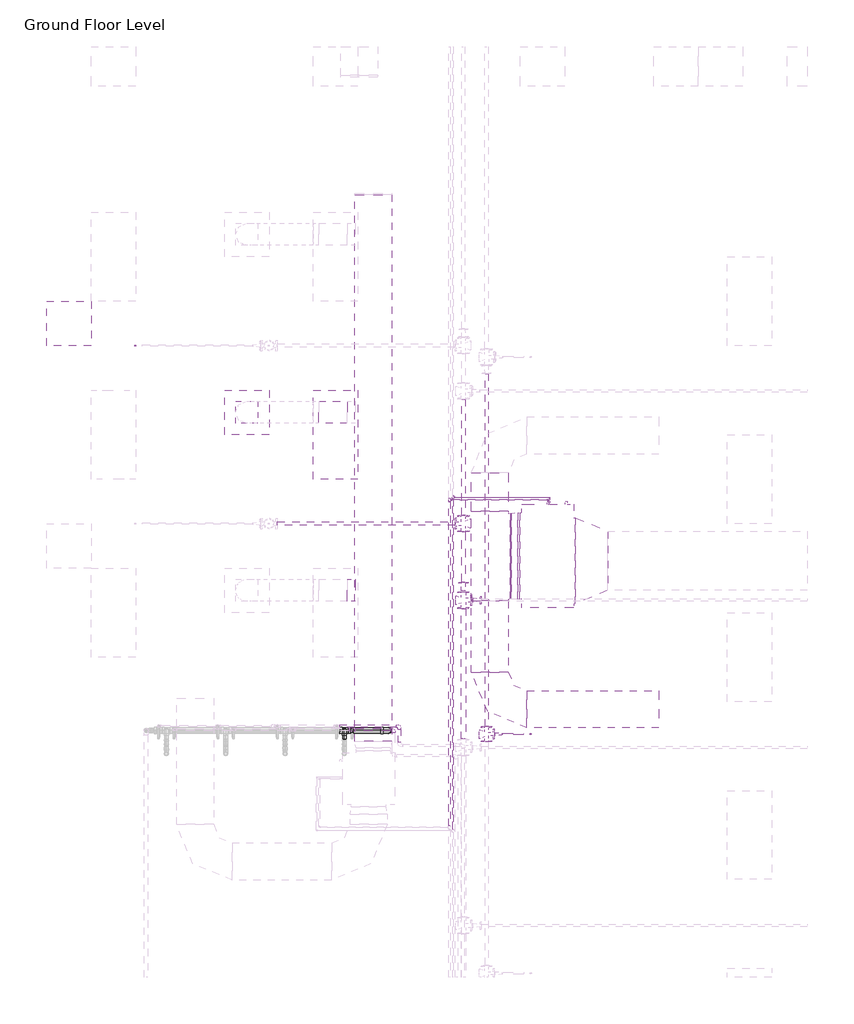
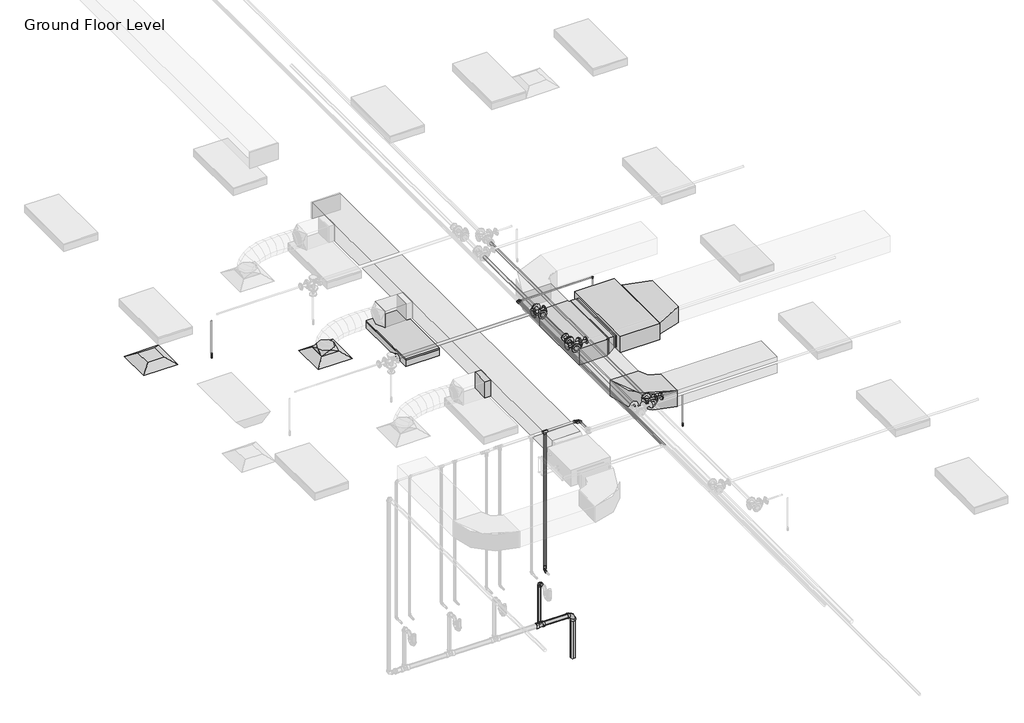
# One storey, part 25 of 74: 24 pipe fittings, 24 pipe segments, 7 duct fittings, 7 duct segments, 2 air terminals, 2 fire suppression terminals, 1 light fixture, 1 proxy.
"""IFC4 building model written with IfcOpenShell, lengths in millimetres."""

from ifc_helpers import new_model, si_unit, point, frame, frame_2d, origin, place, context, project, spatial, polyline, circle_curve, trimmed, segment, composite_curve, outline, extrude, transform, mapped, element, save
from components import m_return_diffuser_600_x_600_face_300_x_300_connection_ff221211, fcu_daikin_iu_5a1bd61d, m_rectangular_elbow_radius_1_w_abe20169, m_rectangular_takeoff_standard_cb0ccb98, m_rectangular_tee_standard_c717c13b, m_rectangular_transition_angle_45_degree_d2868699, m_rectangular_transition_angle_45_degree_3270bfc3, m_rectangular_transition_angle_45_degree_83bbb609, m_rectangular_to_round_transition_angle_45_degree_641efff0, m_sprinkler_dry_pendent_hosted_15_mm_dry_pendent_9bda8e11, m_sprinkler_pendent_15_mm_pendent_06fcbd8e, m_troffer_light_parabolic_rectangular1_0600x1200mm_4_lamp_86473d4a, m_bend_pvc_sch_40_dwv_standard_0eeb11e1, m_bend_pvc_sch_40_dwv_standard_1e7bdcc1, m_elbow_generic_standard_a088f956, m_elbow_generic_standard_2a704253, m_elbow_generic_standard_411ee063, m_elbow_generic_standard_a67d3ed8, m_reducer_flanged_cs_class_150_standard_cc2a7c1d, m_reducer_flanged_cs_class_150_standard_3ab32b2b, m_reducer_flanged_cs_class_150_standard_a7631c35, m_tee_generic_standard_5b2ed4d4, m_tee_generic_standard_5078887e, m_tee_reducing_sanitary_pvc_sch_40_dwv_standard_21d2848c, m_tee_round_base_flanged_cs_class_150_standard_dd767e04, m_tee_round_base_flanged_cs_class_150_standard_9c9133d0, m_tee_round_base_flanged_cs_class_150_standard_ab36f383, m_transition_generic_standard_5f8a9689, m_transition_generic_standard_bdcfe2c1, m_transition_generic_standard_44e35838, m_transition_generic_standard_570aa73b, standard_b266ab3f, standard_517a5a8d, standard_72b35c3b, standard_c7dcb452

model = new_model("IFC4")

# Units and contexts
model_context = context("Model", 3, world=origin())
ifc_project = project(units=[si_unit("LENGTHUNIT", "METRE", prefix="MILLI")], contexts=[model_context])

# Site, building, storey
site = spatial("IfcSite", under=ifc_project)
building = spatial("IfcBuilding", under=site)
storey = spatial("IfcBuildingStorey", under=building, Name="Ground Floor Level", Elevation=900.0)

# Air terminals
placement = place(None, origin())
m_return_diffuser_600_x_600_face_300_x_300_connection_shape = m_return_diffuser_600_x_600_face_300_x_300_connection_ff221211(model_context)
element("IfcAirTerminal", 1, ObjectType="M_Return Diffuser : 600 x 600 Face 300 x 300 Connection", at=placement, inside=storey, context=model_context, shape_type="MappedRepresentation", body=[
    mapped(m_return_diffuser_600_x_600_face_300_x_300_connection_shape, transform((362.7672395, -18364.7846466, 3650.0), x_axis=(1.0, 0.0, 0.0), y_axis=(0.0, 1.0, 0.0), z_axis=(0.0, 0.0, 1.0))),
])
element("IfcAirTerminal", 2, ObjectType="M_Supply Diffuser : 600 x 600 Face 300 x 300 Connection", at=placement, inside=storey, context=model_context, shape_type="MappedRepresentation", body=[
    mapped(m_return_diffuser_600_x_600_face_300_x_300_connection_shape, transform((2762.7672395, -19564.7846466, 3650.0), x_axis=(1.0, 0.0, 0.0), y_axis=(0.0, 1.0, 0.0), z_axis=(0.0, 0.0, 1.0))),
])

# Proxy
fcu_daikin_iu_shape = fcu_daikin_iu_5a1bd61d(model_context)
element("IfcBuildingElementProxy", 3, Name="FCU-DAIKIN IU : 9kW, 230V/50Hz/1Ph", ObjectType="FCU-DAIKIN IU : 9kW, 230V/50Hz/1Ph", at=placement, inside=storey, context=model_context, shape_type="MappedRepresentation", body=[
    mapped(fcu_daikin_iu_shape, transform((6820.4959647, -21503.0689179, 3984.0882279), x_axis=(0.0, 1.0, 0.0), y_axis=(-1.0, 0.0, 0.0), z_axis=(0.0, 0.0, 1.0))),
])

# Duct fittings
m_rectangular_elbow_radius_1_w_shape = m_rectangular_elbow_radius_1_w_abe20169(model_context)
element("IfcDuctFitting", 4, ObjectType="M_Rectangular Elbow - Radius : 1 W", at=placement, inside=storey, context=model_context, shape_type="MappedRepresentation", body=[
    mapped(m_rectangular_elbow_radius_1_w_shape, transform((6040.9897768, -23568.5689179, 4082.4543707), x_axis=(0.0, -1.0, 0.0), y_axis=(1.0, 0.0, 0.0), z_axis=(0.0, 0.0, 1.0))),
])
m_rectangular_takeoff_standard_shape = m_rectangular_takeoff_standard_cb0ccb98(model_context)
element("IfcDuctFitting", 5, ObjectType="M_Rectangular Takeoff : Standard", at=placement, inside=storey, context=model_context, shape_type="MappedRepresentation", body=[
    mapped(m_rectangular_takeoff_standard_shape, transform((4219.1581832, -21964.7846466, 4057.1519579), x_axis=(-1.0, 0.0, 0.0), y_axis=(0.0, 1.0, 0.0), z_axis=(0.0, 0.0, -1.0))),
])
m_rectangular_tee_standard_shape = m_rectangular_tee_standard_c717c13b(model_context)
element("IfcDuctFitting", 6, ObjectType="M_Rectangular Tee : Standard", at=placement, inside=storey, context=model_context, shape_type="MappedRepresentation", body=[
    mapped(m_rectangular_tee_standard_shape, transform((6040.9973279, -21503.0689179, 4082.4405262), x_axis=(0.0, -1.0, 0.0), y_axis=(-1.0, 0.0, 0.0), z_axis=(0.0, 0.0, -1.0))),
])
m_rectangular_transition_angle_45_degree_shape = m_rectangular_transition_angle_45_degree_d2868699(model_context)
element("IfcDuctFitting", 7, ObjectType="M_Rectangular Transition - Angle : 45 Degree", at=placement, inside=storey, context=model_context, shape_type="MappedRepresentation", body=[
    mapped(m_rectangular_transition_angle_45_degree_shape, transform((7195.8959647, -21566.5689179, 4150.0007279), x_axis=(1.0, 0.0, 0.0), y_axis=(0.0, 1.0, 0.0), z_axis=(0.0, 0.0, 1.0))),
])
m_rectangular_transition_angle_45_degree_2_shape = m_rectangular_transition_angle_45_degree_3270bfc3(model_context)
element("IfcDuctFitting", 8, ObjectType="M_Rectangular Transition - Angle : 45 Degree", at=placement, inside=storey, context=model_context, shape_type="MappedRepresentation", body=[
    mapped(m_rectangular_transition_angle_45_degree_2_shape, transform((6445.0959647, -21503.0689179, 4125.2882279), x_axis=(-1.0, 0.0, 0.0), y_axis=(0.0, -1.0, 0.0), z_axis=(0.0, 0.0, 1.0))),
])
m_rectangular_transition_angle_45_degree_3_shape = m_rectangular_transition_angle_45_degree_83bbb609(model_context)
element("IfcDuctFitting", 9, ObjectType="M_Rectangular Transition - Angle : 45 Degree", at=placement, inside=storey, context=model_context, shape_type="MappedRepresentation", body=[
    mapped(m_rectangular_transition_angle_45_degree_3_shape, transform((6416.9897764, -21503.0689179, 4125.4405264), x_axis=(-1.0, 0.0, 0.0), y_axis=(0.0, -1.0, 0.0), z_axis=(0.0, 0.0, 1.0))),
])
m_rectangular_to_round_transition_angle_45_degree_shape = m_rectangular_to_round_transition_angle_45_degree_641efff0(model_context)
element("IfcDuctFitting", 10, ObjectType="M_Rectangular to Round Transition - Angle : 45 Degree", at=placement, inside=storey, context=model_context, shape_type="MappedRepresentation", body=[
    mapped(m_rectangular_to_round_transition_angle_45_degree_shape, transform((2762.7672395, -19564.7846466, 3751.6), x_axis=(0.0, 0.0, 1.0), y_axis=(-1.0, 0.0, 0.0), z_axis=(0.0, -1.0, 0.0))),
])

# Duct segments
element("IfcDuctSegment", 11, ObjectType="Radius Elbows / Taps", at=placement, inside=storey, context=model_context, shape_type="SweptSolid", body=[
    extrude(outline(polyline([(0.0, -500.0), (0.0, 0.0), (7371.604175, 0.0), (7371.604175, -500.0), (0.0, -500.0)])), frame((4719.1581832, -16631.8629481, 3907.1429453), z_axis=(0.0, 1.6199957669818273e-06, 0.9999999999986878), x_axis=(0.0, -0.9999999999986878, 1.6199957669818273e-06)), (0.0, 0.0, 1.0), 300.0),
])
element("IfcDuctSegment", 12, ObjectType="Radius Elbows / Taps", at=placement, inside=storey, context=model_context, shape_type="SweptSolid", body=[
    extrude(outline(polyline([(6290.9897768, -20897.5689179), (5790.9897768, -20897.5689179), (5790.9897768, -20377.6206315), (6290.9897768, -20377.6206315), (6290.9897768, -20897.5689179)])), frame((0.0, 0.0, 3932.4543707), z_axis=(0.0, 0.0, 1.0), x_axis=(1.0, 0.0, 0.0)), (0.0, 0.0, 1.0), 300.0),
])
element("IfcDuctSegment", 13, ObjectType="Radius Elbows / Taps", at=placement, inside=storey, context=model_context, shape_type="SweptSolid", body=[
    extrude(outline(polyline([(5790.9897768, -22108.5689179), (6290.9897768, -22108.5689179), (6290.9897768, -23068.5689179), (5790.9897768, -23068.5689179), (5790.9897768, -22108.5689179)])), frame((0.0, 0.0, 3932.4543707), z_axis=(0.0, 0.0, 1.0), x_axis=(1.0, 0.0, 0.0)), (0.0, 0.0, 1.0), 300.0),
])
element("IfcDuctSegment", 14, ObjectType="Radius Elbows / Taps", at=placement, inside=storey, context=model_context, shape_type="SweptSolid", body=[
    extrude(outline(polyline([(6540.9897768, -23818.5689179), (6540.9897768, -23318.5689179), (8320.9897766, -23318.5689179), (8320.9897766, -23818.5689179), (6540.9897768, -23818.5689179)])), frame((0.0, 0.0, 3932.4543707), z_axis=(0.0, 0.0, 1.0), x_axis=(1.0, 0.0, 0.0)), (0.0, 0.0, 1.0), 300.0),
])
element("IfcDuctSegment", 15, ObjectType="Radius Elbows / Taps", at=placement, inside=storey, context=model_context, shape_type="SweptSolid", body=[
    extrude(outline(polyline([(6315.9897764, -22083.5689179), (6315.9897764, -20922.5689179), (6330.9897764, -20922.5689179), (6330.9897764, -22083.5689179), (6315.9897764, -22083.5689179)])), frame((0.0, 0.0, 3932.4405264), z_axis=(0.0, 0.0, 1.0), x_axis=(1.0, 0.0, 0.0)), (0.0, 0.0, 1.0), 300.0),
])
element("IfcDuctSegment", 16, ObjectType="Radius Elbows / Taps", at=placement, inside=storey, context=model_context, shape_type="SweptSolid", body=[
    extrude(outline(polyline([(6444.798299, -20922.0689179), (6444.798299, -22084.0689179), (6416.9897764, -22084.0689179), (6416.9897764, -20922.0689179), (6444.798299, -20922.0689179)])), frame((0.0, 0.0, 4018.4405264), z_axis=(0.0, 0.0, 1.0), x_axis=(1.0, 0.0, 0.0)), (0.0, 0.0, 1.0), 214.0),
])
element("IfcDuctSegment", 17, ObjectType="Radius Elbows / Taps", at=placement, inside=storey, context=model_context, shape_type="SweptSolid", body=[
    extrude(outline(polyline([(4117.5581832, -19414.7846466), (4117.5581832, -19714.7846466), (3732.9552689, -19714.7846466), (3732.9552689, -19414.7846466), (4117.5581832, -19414.7846466)])), frame((0.0, 0.0, 3907.1479019), z_axis=(0.0, 0.0, 1.0), x_axis=(1.0, 0.0, 0.0)), (0.0, 0.0, 1.0), 300.0),
])

# Fire suppression terminals
m_sprinkler_dry_pendent_hosted_15_mm_dry_pendent_shape = m_sprinkler_dry_pendent_hosted_15_mm_dry_pendent_9bda8e11(model_context)
element("IfcFireSuppressionTerminal", 18, ObjectType="M_Sprinkler - Dry - Pendent - Hosted : 15 mm Dry Pendent", at=placement, inside=storey, context=model_context, shape_type="MappedRepresentation", body=[
    mapped(m_sprinkler_dry_pendent_hosted_15_mm_dry_pendent_shape, transform((1262.7672395, -18664.7846466, 3650.0), x_axis=(1.0, 0.0, 0.0), y_axis=(0.0, -1.0, 0.0), z_axis=(0.0, 0.0, -1.0))),
])
m_sprinkler_pendent_15_mm_pendent_shape = m_sprinkler_pendent_15_mm_pendent_06fcbd8e(model_context)
element("IfcFireSuppressionTerminal", 19, ObjectType="M_Sprinkler - Pendent : 15 mm Pendent", at=placement, inside=storey, context=model_context, shape_type="MappedRepresentation", body=[
    mapped(m_sprinkler_pendent_15_mm_pendent_shape, transform((6592.5481019, -23903.6779349, 3650.0), x_axis=(1.0, 0.0, 0.0), y_axis=(0.0, 1.0, 0.0), z_axis=(0.0, 0.0, 1.0))),
])

# Light fixture
m_troffer_light_parabolic_rectangular1_0600x1200mm_4_lamp_shape = m_troffer_light_parabolic_rectangular1_0600x1200mm_4_lamp_86473d4a(model_context)
element("IfcLightFixture", 20, ObjectType="M_Troffer Light - Parabolic Rectangular1 : 0600x1200mm(4 Lamp) - 277V 2", at=placement, inside=storey, context=model_context, shape_type="MappedRepresentation", body=[
    mapped(m_troffer_light_parabolic_rectangular1_0600x1200mm_4_lamp_shape, transform((3903.3013074, -19846.081145, 3650.0), x_axis=(0.0, 1.0, 0.0), y_axis=(-1.0, 0.0, 0.0), z_axis=(0.0, 0.0, 1.0))),
])

# Pipe fittings
m_bend_pvc_sch_40_dwv_standard_shape = m_bend_pvc_sch_40_dwv_standard_0eeb11e1(model_context)
element("IfcPipeFitting", 21, ObjectType="M_Bend - PVC - Sch 40 - DWV : Standard", at=placement, inside=storey, context=model_context, shape_type="MappedRepresentation", body=[
    mapped(m_bend_pvc_sch_40_dwv_standard_shape, transform((4671.3267974, -23854.2948449, 706.9937306), x_axis=(0.9999500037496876, 0.0, -0.009999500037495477), y_axis=(-0.009999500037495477, 0.0, -0.9999500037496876), z_axis=(0.0, 1.0, 0.0))),
])
m_bend_pvc_sch_40_dwv_standard_2_shape = m_bend_pvc_sch_40_dwv_standard_1e7bdcc1(model_context)
element("IfcPipeFitting", 22, ObjectType="M_Bend - PVC - Sch 40 - DWV : Standard", at=placement, inside=storey, context=model_context, shape_type="MappedRepresentation", body=[
    mapped(m_bend_pvc_sch_40_dwv_standard_2_shape, transform((4079.14976, -23854.2948449, 1508.2594199), x_axis=(0.0, 0.9999500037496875, -0.00999950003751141), y_axis=(0.0, -0.00999950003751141, -0.9999500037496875), z_axis=(-1.0, 0.0, 0.0))),
])
m_elbow_generic_standard_shape = m_elbow_generic_standard_a088f956(model_context)
element("IfcPipeFitting", 23, ObjectType="M_Elbow - Generic : Standard", at=placement, inside=storey, context=model_context, shape_type="MappedRepresentation", body=[
    mapped(m_elbow_generic_standard_shape, transform((6820.4959647, -20745.3977393, 4390.0), x_axis=(1.0, 0.0, 0.0), y_axis=(0.0, 0.0, -1.0), z_axis=(0.0, 1.0, 0.0))),
])
m_elbow_generic_standard_2_shape = m_elbow_generic_standard_2a704253(model_context)
element("IfcPipeFitting", 24, ObjectType="M_Elbow - Generic : Standard", at=placement, inside=storey, context=model_context, shape_type="MappedRepresentation", body=[
    mapped(m_elbow_generic_standard_2_shape, transform((6845.4959647, -20711.8462992, 4377.5), x_axis=(1.0, 0.0, 0.0), y_axis=(0.0, 0.0, -1.0), z_axis=(0.0, 1.0, 0.0))),
])
m_elbow_generic_standard_3_shape = m_elbow_generic_standard_411ee063(model_context)
element("IfcPipeFitting", 25, ObjectType="M_Elbow - Generic : Standard", at=placement, inside=storey, context=model_context, shape_type="MappedRepresentation", body=[
    mapped(m_elbow_generic_standard_3_shape, transform((6820.4959647, -20745.3896748, 4084.1050098), x_axis=(0.0, 0.0, -1.0), y_axis=(0.0, -1.0, 0.0), z_axis=(-1.0, 0.0, 0.0))),
])
m_elbow_generic_standard_4_shape = m_elbow_generic_standard_a67d3ed8(model_context)
element("IfcPipeFitting", 26, ObjectType="M_Elbow - Generic : Standard", at=placement, inside=storey, context=model_context, shape_type="MappedRepresentation", body=[
    mapped(m_elbow_generic_standard_4_shape, transform((6845.4959647, -20711.8400273, 4134.9034747), x_axis=(0.0, 0.0, -1.0), y_axis=(0.0, -1.0, 0.0), z_axis=(-1.0, 0.0, 0.0))),
])
m_reducer_flanged_cs_class_150_standard_shape = m_reducer_flanged_cs_class_150_standard_cc2a7c1d(model_context)
element("IfcPipeFitting", 27, ObjectType="M_Reducer - Flanged - CS - Class 150 : Standard", at=placement, inside=storey, context=model_context, shape_type="MappedRepresentation", body=[
    mapped(m_reducer_flanged_cs_class_150_standard_shape, transform((6103.1564057, -23903.6779349, 4291.2754753), x_axis=(1.0, 0.0, 0.0), y_axis=(0.0, 0.0, -1.0), z_axis=(0.0, 1.0, 0.0))),
])
m_reducer_flanged_cs_class_150_standard_2_shape = m_reducer_flanged_cs_class_150_standard_3ab32b2b(model_context)
element("IfcPipeFitting", 28, ObjectType="M_Reducer - Flanged - CS - Class 150 : Standard", at=placement, inside=storey, context=model_context, shape_type="MappedRepresentation", body=[
    mapped(m_reducer_flanged_cs_class_150_standard_2_shape, transform((5684.6174894, -21984.0287346, 4347.5), x_axis=(0.0, 1.0, 0.0), y_axis=(-1.0, 0.0, 0.0), z_axis=(0.0, 0.0, 1.0))),
])
m_reducer_flanged_cs_class_150_standard_3_shape = m_reducer_flanged_cs_class_150_standard_a7631c35(model_context)
element("IfcPipeFitting", 29, ObjectType="M_Reducer - Flanged - CS - Class 150 : Standard", at=placement, inside=storey, context=model_context, shape_type="MappedRepresentation", body=[
    mapped(m_reducer_flanged_cs_class_150_standard_3_shape, transform((5798.6174894, -22098.0287346, 4347.5), x_axis=(1.0, 0.0, 0.0), y_axis=(0.0, 0.0, 1.0), z_axis=(0.0, -1.0, 0.0))),
])
m_tee_generic_standard_shape = m_tee_generic_standard_5b2ed4d4(model_context)
element("IfcPipeFitting", 30, ObjectType="M_Tee - Generic : Standard", at=placement, inside=storey, context=model_context, shape_type="MappedRepresentation", body=[
    mapped(m_tee_generic_standard_shape, transform((5543.9904113, -20711.8462992, 4377.5), x_axis=(0.0, -1.0, 0.0), y_axis=(-1.0, 0.0, 0.0), z_axis=(0.0, 0.0, -1.0))),
])
m_tee_generic_standard_2_shape = m_tee_generic_standard_5078887e(model_context)
element("IfcPipeFitting", 31, ObjectType="M_Tee - Generic : Standard", at=placement, inside=storey, context=model_context, shape_type="MappedRepresentation", body=[
    mapped(m_tee_generic_standard_2_shape, transform((5497.8951827, -20745.3977393, 4390.0), x_axis=(0.0, -1.0, 0.0), y_axis=(-1.0, 0.0, 0.0), z_axis=(0.0, 0.0, -1.0))),
])
m_tee_reducing_sanitary_pvc_sch_40_dwv_standard_shape = m_tee_reducing_sanitary_pvc_sch_40_dwv_standard_21d2848c(model_context)
element("IfcPipeFitting", 32, ObjectType="M_Tee Reducing Sanitary - PVC - Sch 40 - DWV : Standard", at=placement, inside=storey, context=model_context, shape_type="MappedRepresentation", body=[
    mapped(m_tee_reducing_sanitary_pvc_sch_40_dwv_standard_shape, transform((4079.3782372, -23854.2948449, 713.0632162), x_axis=(-0.9999500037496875, 0.0, 0.00999950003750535), y_axis=(-0.00999950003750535, 0.0, -0.9999500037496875), z_axis=(0.0, -1.0, 0.0))),
])
m_tee_round_base_flanged_cs_class_150_standard_shape = m_tee_round_base_flanged_cs_class_150_standard_dd767e04(model_context)
element("IfcPipeFitting", 33, ObjectType="M_Tee Round Base - Flanged - CS - Class 150 : Standard", at=placement, inside=storey, context=model_context, shape_type="MappedRepresentation", body=[
    mapped(m_tee_round_base_flanged_cs_class_150_standard_shape, transform((5684.6174894, -22098.0287346, 4347.5), x_axis=(0.0, -1.0, 0.0), y_axis=(-1.0, 0.0, 0.0), z_axis=(0.0, 0.0, -1.0))),
])
m_tee_round_base_flanged_cs_class_150_standard_2_shape = m_tee_round_base_flanged_cs_class_150_standard_9c9133d0(model_context)
element("IfcPipeFitting", 34, ObjectType="M_Tee Round Base - Flanged - CS - Class 150 : Standard", at=placement, inside=storey, context=model_context, shape_type="MappedRepresentation", body=[
    mapped(m_tee_round_base_flanged_cs_class_150_standard_2_shape, transform((5997.057812, -23903.6779349, 4291.0943441), x_axis=(0.0, 1.0, 0.0), y_axis=(-1.0, 0.0, 0.0), z_axis=(0.0, 0.0, 1.0))),
])
m_tee_round_base_flanged_cs_class_150_standard_3_shape = m_tee_round_base_flanged_cs_class_150_standard_ab36f383(model_context)
element("IfcPipeFitting", 35, ObjectType="M_Tee Round Base - Flanged - CS - Class 150 : Standard", at=placement, inside=storey, context=model_context, shape_type="MappedRepresentation", body=[
    mapped(m_tee_round_base_flanged_cs_class_150_standard_3_shape, transform((5684.6174894, -21064.7846466, 4347.5), x_axis=(0.0, -1.0, 0.0), y_axis=(1.0, 0.0, 0.0), z_axis=(0.0, 0.0, 1.0))),
])
m_transition_generic_standard_shape = m_transition_generic_standard_5f8a9689(model_context)
element("IfcPipeFitting", 36, ObjectType="M_Transition - Generic : Standard", at=placement, inside=storey, context=model_context, shape_type="MappedRepresentation", body=[
    mapped(m_transition_generic_standard_shape, transform((5497.8951827, -20721.5852393, 4390.0), x_axis=(0.0, 1.0, 0.0), y_axis=(-1.0, 0.0, 0.0), z_axis=(0.0, 0.0, 1.0))),
])
m_transition_generic_standard_2_shape = m_transition_generic_standard_bdcfe2c1(model_context)
element("IfcPipeFitting", 37, ObjectType="M_Transition - Generic : Standard", at=placement, inside=storey, context=model_context, shape_type="MappedRepresentation", body=[
    mapped(m_transition_generic_standard_2_shape, transform((5564.6279113, -20711.8462992, 4377.5), x_axis=(1.0, 0.0, 0.0), y_axis=(0.0, 1.0, 0.0), z_axis=(0.0, 0.0, 1.0))),
])
m_transition_generic_standard_3_shape = m_transition_generic_standard_44e35838(model_context)
element("IfcPipeFitting", 38, ObjectType="M_Transition - Generic : Standard", at=placement, inside=storey, context=model_context, shape_type="MappedRepresentation", body=[
    mapped(m_transition_generic_standard_3_shape, transform((5521.7076827, -20745.3977393, 4390.0), x_axis=(1.0, 0.0, 0.0), y_axis=(0.0, 1.0, 0.0), z_axis=(0.0, 0.0, 1.0))),
])
m_transition_generic_standard_4_shape = m_transition_generic_standard_570aa73b(model_context)
element("IfcPipeFitting", 39, ObjectType="M_Transition - Generic : Standard", at=placement, inside=storey, context=model_context, shape_type="MappedRepresentation", body=[
    mapped(m_transition_generic_standard_4_shape, transform((5543.9904113, -20691.2087992, 4377.5), x_axis=(0.0, 1.0, 0.0), y_axis=(-1.0, 0.0, 0.0), z_axis=(0.0, 0.0, 1.0))),
])
standard_shape = standard_b266ab3f(model_context)
element("IfcPipeFitting", 40, ObjectType="M_Elbow - CPVC - Sch 40 : Standard", at=placement, inside=storey, context=model_context, shape_type="MappedRepresentation", body=[
    mapped(standard_shape, transform((4183.0647206, -23844.7846466, 1690.0), x_axis=(0.0, 1.0, 0.0), y_axis=(0.0, 0.0, 1.0), z_axis=(1.0, 0.0, 0.0))),
])
standard_2_shape = standard_517a5a8d(model_context)
element("IfcPipeFitting", 41, ObjectType="M_Elbow - CPVC - Sch 40 : Standard", at=placement, inside=storey, context=model_context, shape_type="MappedRepresentation", body=[
    mapped(standard_2_shape, transform((4743.0647206, -23844.7846466, 4300.0), x_axis=(0.0, 1.0, 0.0), y_axis=(-1.0, 0.0, 0.0), z_axis=(0.0, 0.0, 1.0))),
])
element("IfcPipeFitting", 42, ObjectType="M_Elbow - CPVC - Sch 40 : Standard", at=placement, inside=storey, context=model_context, shape_type="MappedRepresentation", body=[
    mapped(standard_2_shape, transform((4820.5575802, -23794.921633, 4250.0), x_axis=(0.0, 1.0, 0.0), y_axis=(-1.0, 0.0, 0.0), z_axis=(0.0, 0.0, 1.0))),
])
standard_3_shape = standard_72b35c3b(model_context)
element("IfcPipeFitting", 43, ObjectType="M_Tee - CPVC - Sch 40 : Standard", at=placement, inside=storey, context=model_context, shape_type="MappedRepresentation", body=[
    mapped(standard_3_shape, transform((4183.0647206, -23844.7846466, 4300.0), x_axis=(-1.0, 0.0, 0.0), y_axis=(0.0, 0.0, 1.0), z_axis=(0.0, 1.0, 0.0))),
])
standard_4_shape = standard_c7dcb452(model_context)
element("IfcPipeFitting", 44, ObjectType="M_Coupling Reducing - CPVC - Sch 40 : Standard", at=placement, inside=storey, context=model_context, shape_type="MappedRepresentation", body=[
    mapped(standard_4_shape, transform((4183.0647206, -23844.7846466, 1725.32505), x_axis=(0.0, 0.0, 1.0), y_axis=(0.0, 1.0, 0.0), z_axis=(-1.0, 0.0, 0.0))),
])

# Pipe segments
element("IfcPipeSegment", 45, ObjectType="CPVC", at=placement, inside=storey, context=model_context, shape_type="SweptSolid", body=[
    extrude(outline(composite_curve([segment(trimmed(circle_curve(frame_2d((-23844.7846466, 4300.0)), 16.7005), [point((-23861.4851466, 4300.0))], [point((-23844.7846466, 4316.7005))], False, "CARTESIAN"), True, "CONTINUOUS"), segment(trimmed(circle_curve(frame_2d((-23844.7846466, 4300.0)), 16.7005), [point((-23844.7846466, 4316.7005))], [point((-23828.0841466, 4300.0))], False, "CARTESIAN"), True, "CONTINUOUS"), segment(trimmed(circle_curve(frame_2d((-23844.7846466, 4300.0)), 16.7005), [point((-23828.0841466, 4300.0))], [point((-23844.7846466, 4283.2995))], False, "CARTESIAN"), True, "CONTINUOUS"), segment(trimmed(circle_curve(frame_2d((-23844.7846466, 4300.0)), 16.7005), [point((-23844.7846466, 4283.2995))], [point((-23861.4851466, 4300.0))], False, "CARTESIAN"), True, "CONTINUOUS")], self_intersect=False)), frame((4222.7649206, 0.0, 0.0), z_axis=(1.0, 0.0, 0.0), x_axis=(0.0, 1.0, 0.0)), (0.0, 0.0, 1.0), 477.03725),
])
element("IfcPipeSegment", 46, ObjectType="CPVC", at=placement, inside=storey, context=model_context, shape_type="SweptSolid", body=[
    extrude(outline(composite_curve([segment(trimmed(circle_curve(frame_2d((4183.0647206, -23844.7846466)), 16.7005), [point((4166.3642206, -23844.7846466))], [point((4183.0647206, -23828.0841466))], False, "CARTESIAN"), True, "CONTINUOUS"), segment(trimmed(circle_curve(frame_2d((4183.0647206, -23844.7846466)), 16.7005), [point((4183.0647206, -23828.0841466))], [point((4199.7652206, -23844.7846466))], False, "CARTESIAN"), True, "CONTINUOUS"), segment(trimmed(circle_curve(frame_2d((4183.0647206, -23844.7846466)), 16.7005), [point((4199.7652206, -23844.7846466))], [point((4183.0647206, -23861.4851466))], False, "CARTESIAN"), True, "CONTINUOUS"), segment(trimmed(circle_curve(frame_2d((4183.0647206, -23844.7846466)), 16.7005), [point((4183.0647206, -23861.4851466))], [point((4166.3642206, -23844.7846466))], False, "CARTESIAN"), True, "CONTINUOUS")], self_intersect=False)), frame((0.0, 0.0, 1782.47505), z_axis=(0.0, 0.0, 1.0), x_axis=(1.0, 0.0, 0.0)), (0.0, 0.0, 1.0), 2477.82475),
])
element("IfcPipeSegment", 47, ObjectType="CPVC", at=placement, inside=storey, context=model_context, shape_type="SweptSolid", body=[
    extrude(outline(composite_curve([segment(trimmed(circle_curve(frame_2d((4250.0, 4820.5575802)), 16.7005), [point((4250.0, 4837.2580802))], [point((4266.7005, 4820.5575802))], False, "CARTESIAN"), True, "CONTINUOUS"), segment(trimmed(circle_curve(frame_2d((4250.0, 4820.5575802)), 16.7005), [point((4266.7005, 4820.5575802))], [point((4250.0, 4803.8570802))], False, "CARTESIAN"), True, "CONTINUOUS"), segment(trimmed(circle_curve(frame_2d((4250.0, 4820.5575802)), 16.7005), [point((4250.0, 4803.8570802))], [point((4233.2995, 4820.5575802))], False, "CARTESIAN"), True, "CONTINUOUS"), segment(trimmed(circle_curve(frame_2d((4250.0, 4820.5575802)), 16.7005), [point((4233.2995, 4820.5575802))], [point((4250.0, 4837.2580802))], False, "CARTESIAN"), True, "CONTINUOUS")], self_intersect=False)), frame((0.0, -24011.659083, 0.0), z_axis=(0.0, 1.0, 0.0), x_axis=(0.0, 0.0, 1.0)), (0.0, 0.0, 1.0), 173.4749),
])
element("IfcPipeSegment", 48, ObjectType="CPVC", at=placement, inside=storey, context=model_context, shape_type="SweptSolid", body=[
    extrude(outline(composite_curve([segment(trimmed(circle_curve(frame_2d((-23794.921633, 4250.0)), 16.7005), [point((-23811.622133, 4250.0))], [point((-23794.921633, 4266.7005))], False, "CARTESIAN"), True, "CONTINUOUS"), segment(trimmed(circle_curve(frame_2d((-23794.921633, 4250.0)), 16.7005), [point((-23794.921633, 4266.7005))], [point((-23778.221133, 4250.0))], False, "CARTESIAN"), True, "CONTINUOUS"), segment(trimmed(circle_curve(frame_2d((-23794.921633, 4250.0)), 16.7005), [point((-23778.221133, 4250.0))], [point((-23794.921633, 4233.2995))], False, "CARTESIAN"), True, "CONTINUOUS"), segment(trimmed(circle_curve(frame_2d((-23794.921633, 4250.0)), 16.7005), [point((-23794.921633, 4233.2995))], [point((-23811.622133, 4250.0))], False, "CARTESIAN"), True, "CONTINUOUS")], self_intersect=False)), frame((4014.1350794, 0.0, 0.0), z_axis=(1.0, 0.0, 0.0), x_axis=(0.0, 1.0, 0.0)), (0.0, 0.0, 1.0), 763.1599508),
])
element("IfcPipeSegment", 49, ObjectType="Copper", at=placement, inside=storey, context=model_context, shape_type="SweptSolid", body=[
    extrude(outline(composite_curve([segment(trimmed(circle_curve(frame_2d((-20711.8462992, 4377.5)), 3.35), [point((-20715.1962992, 4377.5))], [point((-20711.8462992, 4380.85))], False, "CARTESIAN"), True, "CONTINUOUS"), segment(trimmed(circle_curve(frame_2d((-20711.8462992, 4377.5)), 3.35), [point((-20711.8462992, 4380.85))], [point((-20708.4962992, 4377.5))], False, "CARTESIAN"), True, "CONTINUOUS"), segment(trimmed(circle_curve(frame_2d((-20711.8462992, 4377.5)), 3.35), [point((-20708.4962992, 4377.5))], [point((-20711.8462992, 4374.15))], False, "CARTESIAN"), True, "CONTINUOUS"), segment(trimmed(circle_curve(frame_2d((-20711.8462992, 4377.5)), 3.35), [point((-20711.8462992, 4374.15))], [point((-20715.1962992, 4377.5))], False, "CARTESIAN"), True, "CONTINUOUS")], self_intersect=False)), frame((5568.5966613, 0.0, 0.0), z_axis=(1.0, 0.0, 0.0), x_axis=(0.0, 1.0, 0.0)), (0.0, 0.0, 1.0), 1265.7618034),
])
element("IfcPipeSegment", 50, ObjectType="Copper", at=placement, inside=storey, context=model_context, shape_type="SweptSolid", body=[
    extrude(outline(composite_curve([segment(trimmed(circle_curve(frame_2d((-20745.3977393, 4390.0)), 6.5), [point((-20751.8977393, 4390.0))], [point((-20745.3977393, 4396.5))], False, "CARTESIAN"), True, "CONTINUOUS"), segment(trimmed(circle_curve(frame_2d((-20745.3977393, 4390.0)), 6.5), [point((-20745.3977393, 4396.5))], [point((-20738.8977393, 4390.0))], False, "CARTESIAN"), True, "CONTINUOUS"), segment(trimmed(circle_curve(frame_2d((-20745.3977393, 4390.0)), 6.5), [point((-20738.8977393, 4390.0))], [point((-20745.3977393, 4383.5))], False, "CARTESIAN"), True, "CONTINUOUS"), segment(trimmed(circle_curve(frame_2d((-20745.3977393, 4390.0)), 6.5), [point((-20745.3977393, 4383.5))], [point((-20751.8977393, 4390.0))], False, "CARTESIAN"), True, "CONTINUOUS")], self_intersect=False)), frame((5527.2639327, 0.0, 0.0), z_axis=(1.0, 0.0, 0.0), x_axis=(0.0, 1.0, 0.0)), (0.0, 0.0, 1.0), 1278.9445321),
])
element("IfcPipeSegment", 51, ObjectType="Copper", at=placement, inside=storey, context=model_context, shape_type="SweptSolid", body=[
    extrude(outline(composite_curve([segment(trimmed(circle_curve(frame_2d((0.0, -6.5)), 6.5), [point((-6.5, -6.5))], [point((0.0, 0.0))], False, "CARTESIAN"), True, "CONTINUOUS"), segment(trimmed(circle_curve(frame_2d((0.0, -6.5)), 6.5), [point((0.0, 0.0))], [point((6.5, -6.5))], False, "CARTESIAN"), True, "CONTINUOUS"), segment(trimmed(circle_curve(frame_2d((0.0, -6.5)), 6.5), [point((6.5, -6.5))], [point((0.0, -13.0))], False, "CARTESIAN"), True, "CONTINUOUS"), segment(trimmed(circle_curve(frame_2d((0.0, -6.5)), 6.5), [point((0.0, -13.0))], [point((-6.5, -6.5))], False, "CARTESIAN"), True, "CONTINUOUS")], self_intersect=False)), frame((6820.4959647, -20764.9497842, 4077.5882561), z_axis=(0.0, 0.9999956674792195, 0.0029436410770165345), x_axis=(1.0, 0.0, 0.0)), (0.0, 0.0, 1.0), 5.2929673),
])
element("IfcPipeSegment", 52, ObjectType="Copper", at=placement, inside=storey, context=model_context, shape_type="SweptSolid", body=[
    extrude(outline(composite_curve([segment(trimmed(circle_curve(frame_2d((0.0, -3.35)), 3.35), [point((0.0, 0.0))], [point((3.35, -3.35))], False, "CARTESIAN"), True, "CONTINUOUS"), segment(trimmed(circle_curve(frame_2d((0.0, -3.35)), 3.35), [point((3.35, -3.35))], [point((0.0, -6.7))], False, "CARTESIAN"), True, "CONTINUOUS"), segment(trimmed(circle_curve(frame_2d((0.0, -3.35)), 3.35), [point((0.0, -6.7))], [point((-3.35, -3.35))], False, "CARTESIAN"), True, "CONTINUOUS"), segment(trimmed(circle_curve(frame_2d((0.0, -3.35)), 3.35), [point((-3.35, -3.35))], [point((0.0, 0.0))], False, "CARTESIAN"), True, "CONTINUOUS")], self_intersect=False)), frame((6842.1459647, -20764.9689179, 4134.8882279), z_axis=(0.0, 0.9999999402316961, 0.00034574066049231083), x_axis=(0.0, 0.00034574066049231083, -0.9999999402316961)), (0.0, 0.0, 1.0), 41.9921215),
])
element("IfcPipeSegment", 53, ObjectType="Copper", at=placement, inside=storey, context=model_context, shape_type="SweptSolid", body=[
    extrude(outline(composite_curve([segment(trimmed(circle_curve(frame_2d((4377.5, 5543.9904113)), 6.5), [point((4377.5, 5550.4904113))], [point((4384.0, 5543.9904113))], False, "CARTESIAN"), True, "CONTINUOUS"), segment(trimmed(circle_curve(frame_2d((4377.5, 5543.9904113)), 6.5), [point((4384.0, 5543.9904113))], [point((4377.5, 5537.4904113))], False, "CARTESIAN"), True, "CONTINUOUS"), segment(trimmed(circle_curve(frame_2d((4377.5, 5543.9904113)), 6.5), [point((4377.5, 5537.4904113))], [point((4371.0, 5543.9904113))], False, "CARTESIAN"), True, "CONTINUOUS"), segment(trimmed(circle_curve(frame_2d((4377.5, 5543.9904113)), 6.5), [point((4371.0, 5543.9904113))], [point((4377.5, 5550.4904113))], False, "CARTESIAN"), True, "CONTINUOUS")], self_intersect=False)), frame((0.0, -25185.8524508, 0.0), z_axis=(0.0, 1.0, 0.0), x_axis=(0.0, 0.0, 1.0)), (0.0, 0.0, 1.0), 4453.3686516),
])
element("IfcPipeSegment", 54, ObjectType="Copper", at=placement, inside=storey, context=model_context, shape_type="SweptSolid", body=[
    extrude(outline(composite_curve([segment(trimmed(circle_curve(frame_2d((4390.0, 5497.8951827)), 9.75), [point((4390.0, 5507.6451827))], [point((4399.75, 5497.8951827))], False, "CARTESIAN"), True, "CONTINUOUS"), segment(trimmed(circle_curve(frame_2d((4390.0, 5497.8951827)), 9.75), [point((4399.75, 5497.8951827))], [point((4390.0, 5488.1451827))], False, "CARTESIAN"), True, "CONTINUOUS"), segment(trimmed(circle_curve(frame_2d((4390.0, 5497.8951827)), 9.75), [point((4390.0, 5488.1451827))], [point((4380.25, 5497.8951827))], False, "CARTESIAN"), True, "CONTINUOUS"), segment(trimmed(circle_curve(frame_2d((4390.0, 5497.8951827)), 9.75), [point((4380.25, 5497.8951827))], [point((4390.0, 5507.6451827))], False, "CARTESIAN"), True, "CONTINUOUS")], self_intersect=False)), frame((0.0, -25138.2771488, 0.0), z_axis=(0.0, 1.0, 0.0), x_axis=(0.0, 0.0, 1.0)), (0.0, 0.0, 1.0), 4369.0669095),
])
element("IfcPipeSegment", 55, ObjectType="Copper", at=placement, inside=storey, context=model_context, shape_type="SweptSolid", body=[
    extrude(outline(composite_curve([segment(trimmed(circle_curve(frame_2d((0.0, -6.5)), 6.5), [point((-6.5, -6.5))], [point((0.0, 0.0))], False, "CARTESIAN"), True, "CONTINUOUS"), segment(trimmed(circle_curve(frame_2d((0.0, -6.5)), 6.5), [point((0.0, 0.0))], [point((6.5, -6.5))], False, "CARTESIAN"), True, "CONTINUOUS"), segment(trimmed(circle_curve(frame_2d((0.0, -6.5)), 6.5), [point((6.5, -6.5))], [point((0.0, -13.0))], False, "CARTESIAN"), True, "CONTINUOUS"), segment(trimmed(circle_curve(frame_2d((0.0, -6.5)), 6.5), [point((0.0, -13.0))], [point((-6.5, -6.5))], False, "CARTESIAN"), True, "CONTINUOUS")], self_intersect=False)), frame((6820.4959647, -20751.8896748, 4098.3911194), z_axis=(0.0, -2.907973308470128e-05, 0.9999999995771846), x_axis=(-1.0, 0.0, 0.0)), (0.0, 0.0, 1.0), 277.3211917),
])
element("IfcPipeSegment", 56, ObjectType="Copper", at=placement, inside=storey, context=model_context, shape_type="SweptSolid", body=[
    extrude(outline(composite_curve([segment(trimmed(circle_curve(frame_2d((0.0, -3.35)), 3.35), [point((-3.35, -3.35))], [point((0.0, 0.0))], False, "CARTESIAN"), True, "CONTINUOUS"), segment(trimmed(circle_curve(frame_2d((0.0, -3.35)), 3.35), [point((0.0, 0.0))], [point((3.35, -3.35))], False, "CARTESIAN"), True, "CONTINUOUS"), segment(trimmed(circle_curve(frame_2d((0.0, -3.35)), 3.35), [point((3.35, -3.35))], [point((0.0, -6.7))], False, "CARTESIAN"), True, "CONTINUOUS"), segment(trimmed(circle_curve(frame_2d((0.0, -3.35)), 3.35), [point((0.0, -6.7))], [point((-3.35, -3.35))], False, "CARTESIAN"), True, "CONTINUOUS")], self_intersect=False)), frame((6845.4959647, -20715.1900273, 4146.0401509), z_axis=(0.0, -2.8466951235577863e-05, 0.9999999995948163), x_axis=(-1.0, 0.0, 0.0)), (0.0, 0.0, 1.0), 220.3222538),
])
element("IfcPipeSegment", 57, ObjectType="PVC - DWV", at=placement, inside=storey, context=model_context, shape_type="SweptSolid", body=[
    extrude(outline(composite_curve([segment(trimmed(circle_curve(frame_2d((0.0, -36.5125)), 36.5125), [point((0.0, -73.025))], [point((-36.5125001, -36.5125))], False, "CARTESIAN"), True, "CONTINUOUS"), segment(trimmed(circle_curve(frame_2d((0.0, -36.5125)), 36.5125), [point((-36.5125001, -36.5125))], [point((0.0, 0.0))], False, "CARTESIAN"), True, "CONTINUOUS"), segment(trimmed(circle_curve(frame_2d((0.0, -36.5125)), 36.5125), [point((0.0, 0.0))], [point((36.5125, -36.5125))], False, "CARTESIAN"), True, "CONTINUOUS"), segment(trimmed(circle_curve(frame_2d((0.0, -36.5125)), 36.5125), [point((36.5125, -36.5125))], [point((0.0, -73.025))], False, "CARTESIAN"), True, "CONTINUOUS")], self_intersect=False)), frame((4572.3191851, -23817.7823449, 708.1338068), z_axis=(-0.9999500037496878, 0.0, 0.009999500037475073), x_axis=(0.009999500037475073, 0.0, 0.9999500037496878)), (0.0, 0.0, 1.0), 413.9024756),
])
element("IfcPipeSegment", 58, ObjectType="PVC - DWV", at=placement, inside=storey, context=model_context, shape_type="SweptSolid", body=[
    extrude(outline(composite_curve([segment(trimmed(circle_curve(frame_2d((0.0, -24.13)), 24.13), [point((24.13, -24.13))], [point((0.0, -48.26))], False, "CARTESIAN"), True, "CONTINUOUS"), segment(trimmed(circle_curve(frame_2d((0.0, -24.13)), 24.13), [point((0.0, -48.26))], [point((-24.13, -24.13))], False, "CARTESIAN"), True, "CONTINUOUS"), segment(trimmed(circle_curve(frame_2d((0.0, -24.13)), 24.13), [point((-24.13, -24.13))], [point((0.0, 0.0))], False, "CARTESIAN"), True, "CONTINUOUS"), segment(trimmed(circle_curve(frame_2d((0.0, -24.13)), 24.13), [point((0.0, 0.0))], [point((24.13, -24.13))], False, "CARTESIAN"), True, "CONTINUOUS")], self_intersect=False)), frame((4079.14976, -23915.9502622, 1533.0071805), z_axis=(0.0, -0.9999500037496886, 0.009999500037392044), x_axis=(1.0, 0.0, 0.0)), (0.0, 0.0, 1.0), 60.2666156),
])
element("IfcPipeSegment", 59, ObjectType="PVC - DWV", at=placement, inside=storey, context=model_context, shape_type="SweptSolid", body=[
    extrude(outline(composite_curve([segment(trimmed(circle_curve(frame_2d((0.0, 24.13)), 24.13), [point((-24.13, 24.13))], [point((0.0, 48.26))], False, "CARTESIAN"), True, "CONTINUOUS"), segment(trimmed(circle_curve(frame_2d((0.0, 24.13)), 24.13), [point((0.0, 48.26))], [point((24.13, 24.13))], False, "CARTESIAN"), True, "CONTINUOUS"), segment(trimmed(circle_curve(frame_2d((0.0, 24.13)), 24.13), [point((24.13, 24.13))], [point((0.0, 0.0))], False, "CARTESIAN"), True, "CONTINUOUS"), segment(trimmed(circle_curve(frame_2d((0.0, 24.13)), 24.13), [point((0.0, 0.0))], [point((-24.13, 24.13))], False, "CARTESIAN"), True, "CONTINUOUS")], self_intersect=False)), frame((4079.3782372, -23878.4248449, 793.9106725), z_axis=(-4.3677210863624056e-05, 0.0, 0.9999999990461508), x_axis=(0.9999999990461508, 0.0, 4.3677210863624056e-05)), (0.0, 0.0, 1.0), 652.448948),
])
element("IfcPipeSegment", 60, ObjectType="PVC - DWV", at=placement, inside=storey, context=model_context, shape_type="SweptSolid", body=[
    extrude(outline(composite_curve([segment(trimmed(circle_curve(frame_2d((0.0, -36.5125)), 36.5125), [point((-36.5125, -36.5125))], [point((0.0, 0.0))], False, "CARTESIAN"), True, "CONTINUOUS"), segment(trimmed(circle_curve(frame_2d((0.0, -36.5125)), 36.5125), [point((0.0, 0.0))], [point((36.5125, -36.5125))], False, "CARTESIAN"), True, "CONTINUOUS"), segment(trimmed(circle_curve(frame_2d((0.0, -36.5125)), 36.5125), [point((36.5125, -36.5125))], [point((0.0, -73.025))], False, "CARTESIAN"), True, "CONTINUOUS"), segment(trimmed(circle_curve(frame_2d((0.0, -36.5125)), 36.5125), [point((0.0, -73.025))], [point((-36.5125, -36.5125))], False, "CARTESIAN"), True, "CONTINUOUS")], self_intersect=False)), frame((4671.2998001, -23890.8073449, -100.0), z_axis=(3.81328750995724e-05, 0.0, 0.999999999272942), x_axis=(-0.999999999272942, 0.0, 3.81328750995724e-05)), (0.0, 0.0, 1.0), 707.9796686),
])
element("IfcPipeSegment", 61, ObjectType="Steel flanged", at=placement, inside=storey, context=model_context, shape_type="SweptSolid", body=[
    extrude(outline(composite_curve([segment(trimmed(circle_curve(frame_2d((6592.5481019, -23903.6779349)), 10.668), [point((6581.8801019, -23903.6779349))], [point((6592.5481019, -23893.0099349))], False, "CARTESIAN"), True, "CONTINUOUS"), segment(trimmed(circle_curve(frame_2d((6592.5481019, -23903.6779349)), 10.668), [point((6592.5481019, -23893.0099349))], [point((6603.2161019, -23903.6779349))], False, "CARTESIAN"), True, "CONTINUOUS"), segment(trimmed(circle_curve(frame_2d((6592.5481019, -23903.6779349)), 10.668), [point((6603.2161019, -23903.6779349))], [point((6592.5481019, -23914.3459349))], False, "CARTESIAN"), True, "CONTINUOUS"), segment(trimmed(circle_curve(frame_2d((6592.5481019, -23903.6779349)), 10.668), [point((6592.5481019, -23914.3459349))], [point((6581.8801019, -23903.6779349))], False, "CARTESIAN"), True, "CONTINUOUS")], self_intersect=False)), frame((0.0, 0.0, 3650.0), z_axis=(0.0, 0.0, 1.0), x_axis=(1.0, 0.0, 0.0)), (0.0, 0.0, 1.0), 548.2668816),
])
element("IfcPipeSegment", 62, ObjectType="Steel flanged", at=placement, inside=storey, context=model_context, shape_type="SweptSolid", body=[
    extrude(outline(composite_curve([segment(trimmed(circle_curve(frame_2d((-23903.6779349, 4291.2754753)), 10.668), [point((-23893.0099349, 4291.2754753))], [point((-23903.6779349, 4280.6074753))], False, "CARTESIAN"), True, "CONTINUOUS"), segment(trimmed(circle_curve(frame_2d((-23903.6779349, 4291.2754753)), 10.668), [point((-23903.6779349, 4280.6074753))], [point((-23914.3459349, 4291.2754753))], False, "CARTESIAN"), True, "CONTINUOUS"), segment(trimmed(circle_curve(frame_2d((-23903.6779349, 4291.2754753)), 10.668), [point((-23914.3459349, 4291.2754753))], [point((-23903.6779349, 4301.9434753))], False, "CARTESIAN"), True, "CONTINUOUS"), segment(trimmed(circle_curve(frame_2d((-23903.6779349, 4291.2754753)), 10.668), [point((-23903.6779349, 4301.9434753))], [point((-23893.0099349, 4291.2754753))], False, "CARTESIAN"), True, "CONTINUOUS")], self_intersect=False)), frame((6217.1564057, 0.0, 0.0), z_axis=(1.0, 0.0, 0.0), x_axis=(0.0, 1.0, 0.0)), (0.0, 0.0, 1.0), 282.3831025),
])
element("IfcPipeSegment", 63, ObjectType="Steel flanged", at=placement, inside=storey, context=model_context, shape_type="SweptSolid", body=[
    extrude(outline(composite_curve([segment(trimmed(circle_curve(frame_2d((4291.0943441, 5997.057812)), 21.082), [point((4291.0943441, 5975.975812))], [point((4270.0123441, 5997.057812))], False, "CARTESIAN"), True, "CONTINUOUS"), segment(trimmed(circle_curve(frame_2d((4291.0943441, 5997.057812)), 21.082), [point((4270.0123441, 5997.057812))], [point((4291.0943441, 6018.139812))], False, "CARTESIAN"), True, "CONTINUOUS"), segment(trimmed(circle_curve(frame_2d((4291.0943441, 5997.057812)), 21.082), [point((4291.0943441, 6018.139812))], [point((4312.1763441, 5997.057812))], False, "CARTESIAN"), True, "CONTINUOUS"), segment(trimmed(circle_curve(frame_2d((4291.0943441, 5997.057812)), 21.082), [point((4312.1763441, 5997.057812))], [point((4291.0943441, 5975.975812))], False, "CARTESIAN"), True, "CONTINUOUS")], self_intersect=False)), frame((0.0, -23797.5793411, 0.0), z_axis=(0.0, 1.0, 0.0), x_axis=(0.0, 0.0, 1.0)), (0.0, 0.0, 1.0), 4752.4508334),
])
element("IfcPipeSegment", 64, ObjectType="Steel flanged", at=placement, inside=storey, context=model_context, shape_type="SweptSolid", body=[
    extrude(outline(composite_curve([segment(trimmed(circle_curve(frame_2d((4347.5, 5684.6174894)), 30.1625), [point((4347.5, 5714.7799894))], [point((4377.6625, 5684.6174894))], False, "CARTESIAN"), True, "CONTINUOUS"), segment(trimmed(circle_curve(frame_2d((4347.5, 5684.6174894)), 30.1625), [point((4377.6625, 5684.6174894))], [point((4347.5, 5654.4549894))], False, "CARTESIAN"), True, "CONTINUOUS"), segment(trimmed(circle_curve(frame_2d((4347.5, 5684.6174894)), 30.1625), [point((4347.5, 5654.4549894))], [point((4317.3375, 5684.6174894))], False, "CARTESIAN"), True, "CONTINUOUS"), segment(trimmed(circle_curve(frame_2d((4347.5, 5684.6174894)), 30.1625), [point((4317.3375, 5684.6174894))], [point((4347.5, 5714.7799894))], False, "CARTESIAN"), True, "CONTINUOUS")], self_intersect=False)), frame((0.0, -23969.6779349, 0.0), z_axis=(0.0, 1.0, 0.0), x_axis=(0.0, 0.0, 1.0)), (0.0, 0.0, 1.0), 1757.6492003),
])
element("IfcPipeSegment", 65, ObjectType="Steel flanged", at=placement, inside=storey, context=model_context, shape_type="SweptSolid", body=[
    extrude(outline(composite_curve([segment(trimmed(circle_curve(frame_2d((1262.7672395, -18664.7846466)), 10.668), [point((1252.0992395, -18664.7846466))], [point((1262.7672395, -18654.1166466))], False, "CARTESIAN"), True, "CONTINUOUS"), segment(trimmed(circle_curve(frame_2d((1262.7672395, -18664.7846466)), 10.668), [point((1262.7672395, -18654.1166466))], [point((1273.4352395, -18664.7846466))], False, "CARTESIAN"), True, "CONTINUOUS"), segment(trimmed(circle_curve(frame_2d((1262.7672395, -18664.7846466)), 10.668), [point((1273.4352395, -18664.7846466))], [point((1262.7672395, -18675.4526466))], False, "CARTESIAN"), True, "CONTINUOUS"), segment(trimmed(circle_curve(frame_2d((1262.7672395, -18664.7846466)), 10.668), [point((1262.7672395, -18675.4526466))], [point((1252.0992395, -18664.7846466))], False, "CARTESIAN"), True, "CONTINUOUS")], self_intersect=False)), frame((0.0, 0.0, 3650.0), z_axis=(0.0, 0.0, 1.0), x_axis=(1.0, 0.0, 0.0)), (0.0, 0.0, 1.0), 604.4914062),
])
element("IfcPipeSegment", 66, ObjectType="Steel flanged", at=placement, inside=storey, context=model_context, shape_type="SweptSolid", body=[
    extrude(outline(composite_curve([segment(trimmed(circle_curve(frame_2d((4347.5, 5684.6174894)), 24.13), [point((4347.5, 5708.7474894))], [point((4371.63, 5684.6174894))], False, "CARTESIAN"), True, "CONTINUOUS"), segment(trimmed(circle_curve(frame_2d((4347.5, 5684.6174894)), 24.13), [point((4371.63, 5684.6174894))], [point((4347.5, 5660.4874894))], False, "CARTESIAN"), True, "CONTINUOUS"), segment(trimmed(circle_curve(frame_2d((4347.5, 5684.6174894)), 24.13), [point((4347.5, 5660.4874894))], [point((4323.37, 5684.6174894))], False, "CARTESIAN"), True, "CONTINUOUS"), segment(trimmed(circle_curve(frame_2d((4347.5, 5684.6174894)), 24.13), [point((4323.37, 5684.6174894))], [point((4347.5, 5708.7474894))], False, "CARTESIAN"), True, "CONTINUOUS")], self_intersect=False)), frame((0.0, -20952.5260529, 0.0), z_axis=(0.0, 1.0, 0.0), x_axis=(0.0, 0.0, 1.0)), (0.0, 0.0, 1.0), 1564.3818468),
])
element("IfcPipeSegment", 67, ObjectType="Steel flanged", at=placement, inside=storey, context=model_context, shape_type="SweptSolid", body=[
    extrude(outline(composite_curve([segment(trimmed(circle_curve(frame_2d((4347.5, 5684.6174894)), 24.13), [point((4347.5, 5708.7474894))], [point((4371.63, 5684.6174894))], False, "CARTESIAN"), True, "CONTINUOUS"), segment(trimmed(circle_curve(frame_2d((4347.5, 5684.6174894)), 24.13), [point((4371.63, 5684.6174894))], [point((4347.5, 5660.4874894))], False, "CARTESIAN"), True, "CONTINUOUS"), segment(trimmed(circle_curve(frame_2d((4347.5, 5684.6174894)), 24.13), [point((4347.5, 5660.4874894))], [point((4323.37, 5684.6174894))], False, "CARTESIAN"), True, "CONTINUOUS"), segment(trimmed(circle_curve(frame_2d((4347.5, 5684.6174894)), 24.13), [point((4323.37, 5684.6174894))], [point((4347.5, 5708.7474894))], False, "CARTESIAN"), True, "CONTINUOUS")], self_intersect=False)), frame((0.0, -21857.0287346, 0.0), z_axis=(0.0, 1.0, 0.0), x_axis=(0.0, 0.0, 1.0)), (0.0, 0.0, 1.0), 679.9854942),
])
element("IfcPipeSegment", 68, ObjectType="Steel flanged", at=placement, inside=storey, context=model_context, shape_type="SweptSolid", body=[
    extrude(outline(composite_curve([segment(trimmed(circle_curve(frame_2d((-21064.7846466, 4347.5)), 24.13), [point((-21088.9146466, 4347.5))], [point((-21064.7846466, 4371.63))], False, "CARTESIAN"), True, "CONTINUOUS"), segment(trimmed(circle_curve(frame_2d((-21064.7846466, 4347.5)), 24.13), [point((-21064.7846466, 4371.63))], [point((-21040.6546466, 4347.5))], False, "CARTESIAN"), True, "CONTINUOUS"), segment(trimmed(circle_curve(frame_2d((-21064.7846466, 4347.5)), 24.13), [point((-21040.6546466, 4347.5))], [point((-21064.7846466, 4323.37))], False, "CARTESIAN"), True, "CONTINUOUS"), segment(trimmed(circle_curve(frame_2d((-21064.7846466, 4347.5)), 24.13), [point((-21064.7846466, 4323.37))], [point((-21088.9146466, 4347.5))], False, "CARTESIAN"), True, "CONTINUOUS")], self_intersect=False)), frame((3175.0258332, 0.0, 0.0), z_axis=(1.0, 0.0, 0.0), x_axis=(0.0, 1.0, 0.0)), (0.0, 0.0, 1.0), 2397.3330624),
])

save(model, "model.ifc")
